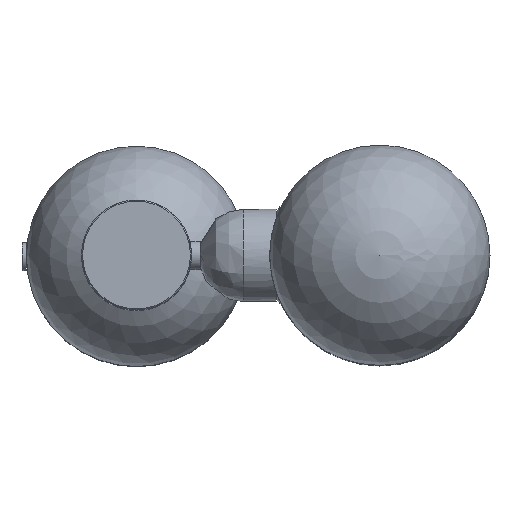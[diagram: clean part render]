
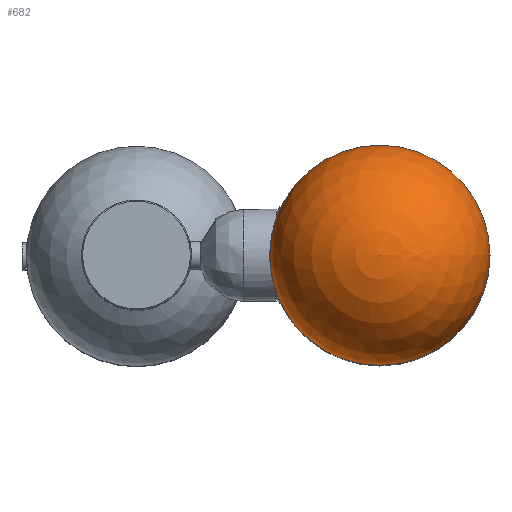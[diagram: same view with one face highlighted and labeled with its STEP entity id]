
A CAD part, top view. The second image highlights one B-rep face of the part: STEP entity #682.
In plain terms, the highlighted spherical face has radius 50 mm.
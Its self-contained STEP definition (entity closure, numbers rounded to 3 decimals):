
#23=SPHERICAL_SURFACE('',#773,50.);
#97=FACE_OUTER_BOUND('',#148,.T.);
#148=EDGE_LOOP('',(#510,#511,#512,#513));
#199=CIRCLE('',#774,50.);
#200=CIRCLE('',#775,50.);
#201=CIRCLE('',#776,50.);
#306=VERTEX_POINT('',#1173);
#307=VERTEX_POINT('',#1174);
#308=VERTEX_POINT('',#1176);
#382=EDGE_CURVE('',#306,#307,#199,.T.);
#383=EDGE_CURVE('',#308,#307,#200,.T.);
#384=EDGE_CURVE('',#307,#306,#201,.T.);
#510=ORIENTED_EDGE('',*,*,#382,.T.);
#511=ORIENTED_EDGE('',*,*,#383,.F.);
#512=ORIENTED_EDGE('',*,*,#383,.T.);
#513=ORIENTED_EDGE('',*,*,#384,.T.);
#682=ADVANCED_FACE('',(#97),#23,.T.);
#773=AXIS2_PLACEMENT_3D('',#1172,#910,#911);
#774=AXIS2_PLACEMENT_3D('',#1175,#912,#913);
#775=AXIS2_PLACEMENT_3D('',#1177,#914,#915);
#776=AXIS2_PLACEMENT_3D('',#1178,#916,#917);
#910=DIRECTION('center_axis',(0.,0.,1.));
#911=DIRECTION('ref_axis',(-1.,0.,0.));
#912=DIRECTION('center_axis',(0.,0.,
1.));
#913=DIRECTION('ref_axis',(0.,1.,0.));
#914=DIRECTION('center_axis',(0.,1.,0.));
#915=DIRECTION('ref_axis',(1.,0.,0.));
#916=DIRECTION('center_axis',(0.,0.,
1.));
#917=DIRECTION('ref_axis',(0.,1.,0.));
#1172=CARTESIAN_POINT('Origin',(110.548,0.,
381.98));
#1173=CARTESIAN_POINT('',(110.548,50.,381.98));
#1174=CARTESIAN_POINT('',(160.548,0.,381.98));
#1175=CARTESIAN_POINT('Origin',(110.548,0.,
381.98));
#1176=CARTESIAN_POINT('',(110.548,0.,431.98));
#1177=CARTESIAN_POINT('Origin',(110.548,0.,
381.98));
#1178=CARTESIAN_POINT('Origin',(110.548,0.,
381.98));
